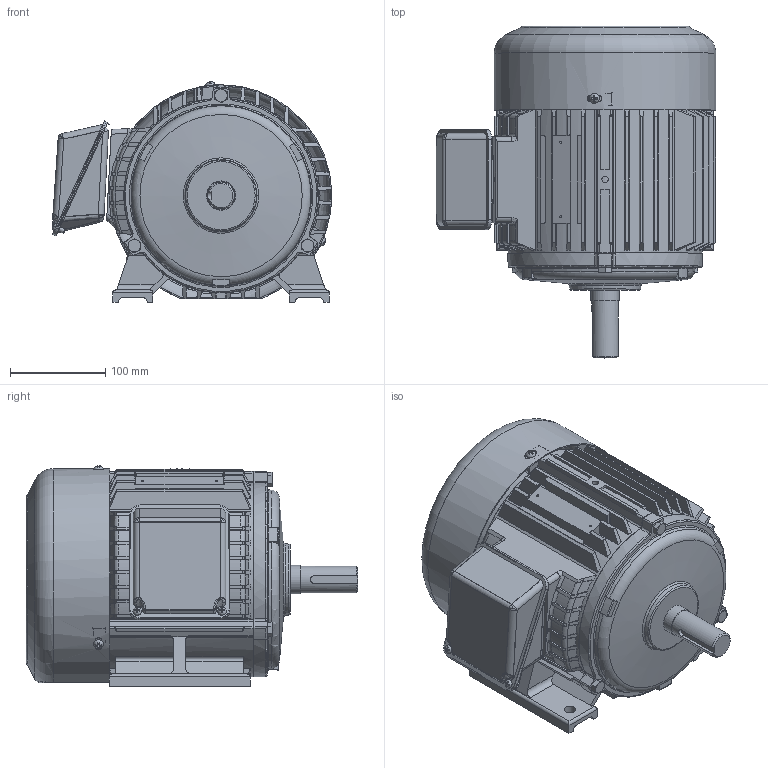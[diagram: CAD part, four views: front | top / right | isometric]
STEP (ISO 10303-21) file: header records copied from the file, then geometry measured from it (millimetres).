
FILE_DESCRIPTION(/* description */ ('Unknown'),/* implementation_level */ '2;1');
FILE_NAME(/* name */ '1-SMA-39253_외형도(194DIA)',/* time_stamp */ '2026-07-24T08:26:45+09:00',/* author */ ('Unknown'),/* organization */ ('Unknown'),/* preprocessor_version */ 'ST-DEVELOPER v16',/* originating_system */ 'DEX',/* authorisation */ $);
FILE_SCHEMA (('AUTOMOTIVE_DESIGN {1 0 10303 214 3 1 1}'));
Length unit declared in the file: millimetre
Products named in the file (14): 1-SMA-39253_寇屈档(194DIification_assignment; 2-SMA-38822_FRAME(194DIA); 3-SMA-30871N_¾Õºê¶óÄÏ(194D^Å¾|·Ï(; 4-SMA-30872N_µÚºê¶óÄÏ(194DÔ:; 5-SMA-39090_SHAFT(194DIA); 6-SMA-31242_FAN(160DIA); 7-SMA-30644_FAN COVER(194DIA); 8-SMA-33042_T-BOX(鼻)(194DIA); 9-SMA-33043_T-BOX(ﾇﾏ)(194DIA)x F; 菅斬 褊濠 M5x0.8x; 菅斬 褊濠 M6x1x; 幫陝獐お M8x1.25x; 6206ZZ; 6205ZZ
Assembly tree (21 placements, depth 2):
  1-SMA-39253_寇屈档(194DIification_assignment
    2-SMA-38822_FRAME(194DIA)
    3-SMA-30871N_¾Õºê¶óÄÏ(194D^Å¾|·Ï(
    4-SMA-30872N_µÚºê¶óÄÏ(194DÔ:
    5-SMA-39090_SHAFT(194DIA)
    6-SMA-31242_FAN(160DIA)
    7-SMA-30644_FAN COVER(194DIA)
    8-SMA-33042_T-BOX(鼻)(194DIA)
    9-SMA-33043_T-BOX(ﾇﾏ)(194DIA)x F
    菅斬 褊濠 M5x0.8x  x2
    菅斬 褊濠 M6x1x  x3
    幫陝獐お M8x1.25x  x6
    6206ZZ
    6205ZZ
Bounding box: 293.31 x 348 x 231.52 mm (x, y, z)
Volume: 2118684.4 mm3; surface area: 946403 mm2
Topology: 43 solids, 43 shells, 1750 faces, 4565 edges, 2926 vertices
Faces by surface type: plane 619, cylinder 568, cone 334, torus 155, bspline 51, sphere 23
Full cylindrical faces by diameter (mm): 2.2 x2, 4.134 x2, 4.917 x6, 5 x2, 6 x8, 6.647 x13, 7 x2, 8 x12, 10 x6, 12 x4, 18.2 x2, 24.8 x1, 25 x2, 25.6 x1, 28 x2, 29.8 x1, 30 x2, 30.6 x1, 31.1 x1, 32.714 x2, 33.114 x2, 34 x1, 35 x2, 39.143 x2, 39.543 x2, 40 x1, 43.886 x2, 44.286 x2, 52 x2, 52.457 x2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
Entity records: 70681 total; most frequent: CARTESIAN_POINT 28055, ORIENTED_EDGE 7882, DIRECTION 7598, EDGE_CURVE 3941, AXIS2_PLACEMENT_3D 3065, VERTEX_POINT 2640, FACE_BOUND 1933, EDGE_LOOP 1909
